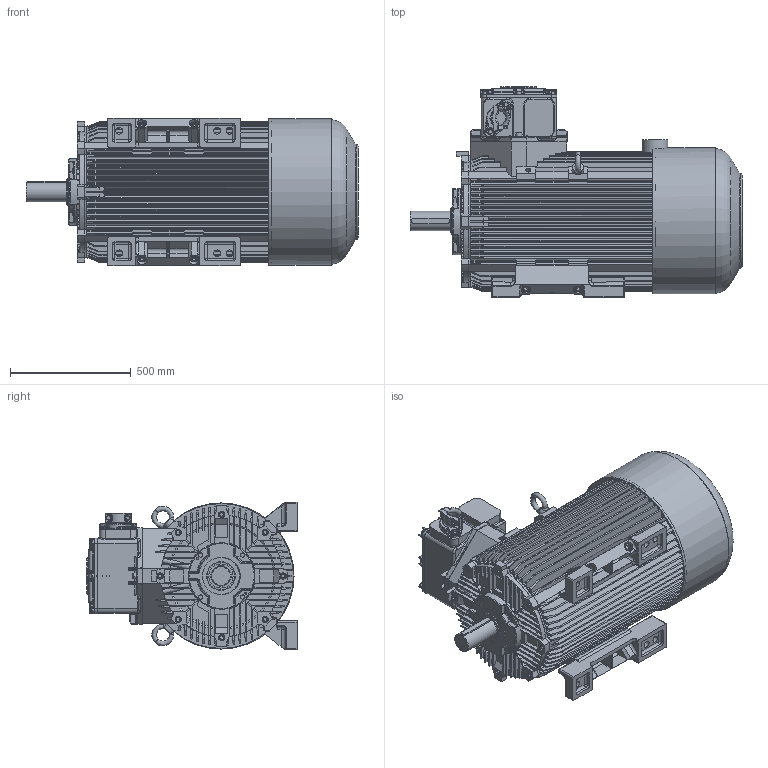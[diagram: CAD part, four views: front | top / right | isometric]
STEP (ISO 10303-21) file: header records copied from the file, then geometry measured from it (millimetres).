
FILE_DESCRIPTION(/* description */ ('Unknown'),/* implementation_level */ '2;1');
FILE_NAME(/* name */ 'EcSTe(b)315M4(A,B), M(6,8)B-N-IE(2,3)',/* time_stamp */ '2022-04-19T14:19:34+02:00',/* author */ ('Unknown'),/* organization */ ('Unknown'),/* preprocessor_version */ 'ST-DEVELOPER v16.7',/* originating_system */ 'DEX',/* authorisation */ $);
FILE_SCHEMA (('AUTOMOTIVE_DESIGN {1 0 10303 214 3 1 1}'));
Length unit declared in the file: millimetre
Products named in the file (1): EcSTe(b)315M4(A,B), M(6,8)B-N-IE(2,3)
Bounding box: 1374.96 x 870 x 610.06 mm (x, y, z)
Volume: 304167876.7 mm3; surface area: 7638179.3 mm2
Topology: 1 solids, 75 shells, 3797 faces, 9698 edges, 6037 vertices
Faces by surface type: plane 1510, cylinder 1220, cone 371, torus 363, bspline 235, sphere 98
Full cylindrical faces by diameter (mm): 2.459 x4, 3 x4, 3.2 x2, 6 x2, 6.3 x1, 8.16 x8, 8.376 x16, 8.917 x2, 10 x10, 11 x6, 12 x2, 13.546 x11, 13.835 x15, 14 x1, 14.63 x8, 16 x20, 17.5 x16, 18 x8, 19.6 x2, 20.319 x4, 20.752 x10, 24 x12, 26 x12, 28 x6, 40 x4, 62 x1, 67 x1, 80 x1, 81.5 x1, 82 x1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
Entity records: 147944 total; most frequent: CARTESIAN_POINT 32802, DIRECTION 18716, ORIENTED_EDGE 18120, EDGE_CURVE 9060, AXIS2_PLACEMENT_3D 7201, VERTEX_POINT 5853, FACE_BOUND 4357, EDGE_LOOP 4333
